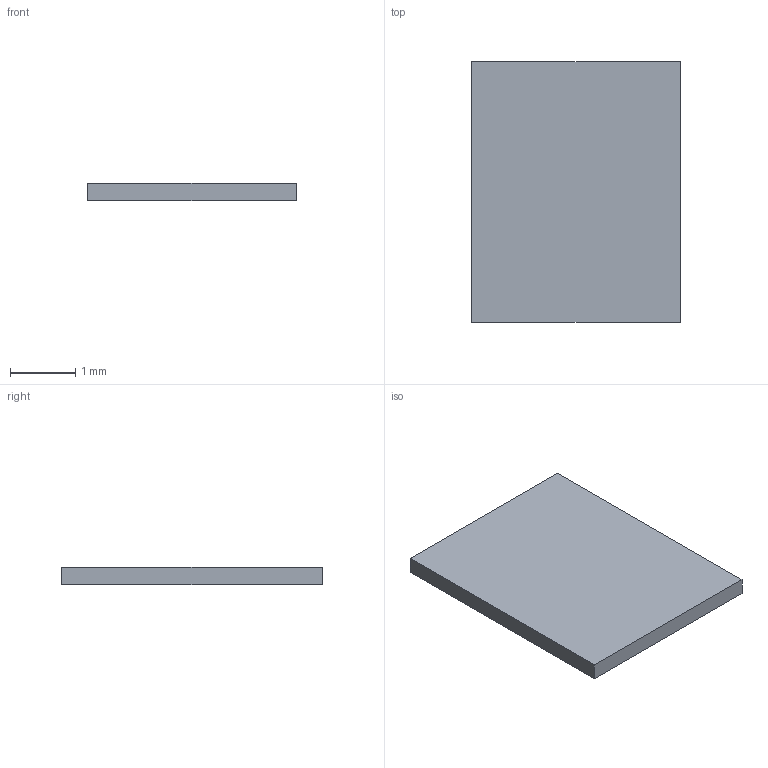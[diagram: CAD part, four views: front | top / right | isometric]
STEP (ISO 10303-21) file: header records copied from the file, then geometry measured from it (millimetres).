
FILE_DESCRIPTION(('Open CASCADE Model'),'2;1');
FILE_NAME('Open CASCADE Shape Model','2026-09-15T13:40:31',('Author'),( 'Open CASCADE'),'Open CASCADE STEP processor 7.7','Open CASCADE 7.7' ,'Unknown');
FILE_SCHEMA(('AUTOMOTIVE_DESIGN { 1 0 10303 214 1 1 1 1 }'));
Length unit declared in the file: millimetre
Products named in the file (1): SOLID
Bounding box: 3.2 x 4 x 0.26 mm (x, y, z)
Volume: 3.3 mm3; surface area: 29.4 mm2
Topology: 1 solids, 1 shells, 6 faces, 12 edges, 8 vertices
Faces by surface type: plane 6
Entity records: 322 total; most frequent: CARTESIAN_POINT 51, DIRECTION 50, LINE 36, VECTOR 36, ORIENTED_EDGE 24, PCURVE 24, DEFINITIONAL_REPRESENTATION 24, EDGE_CURVE 12
